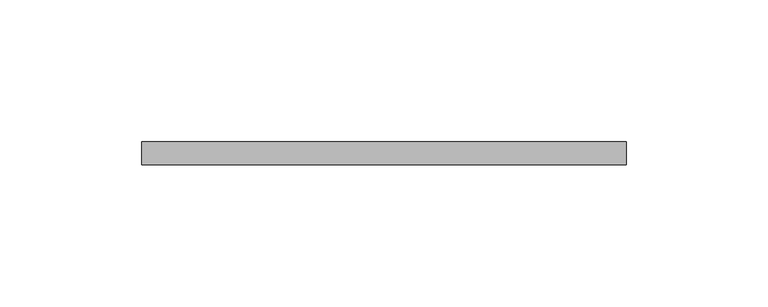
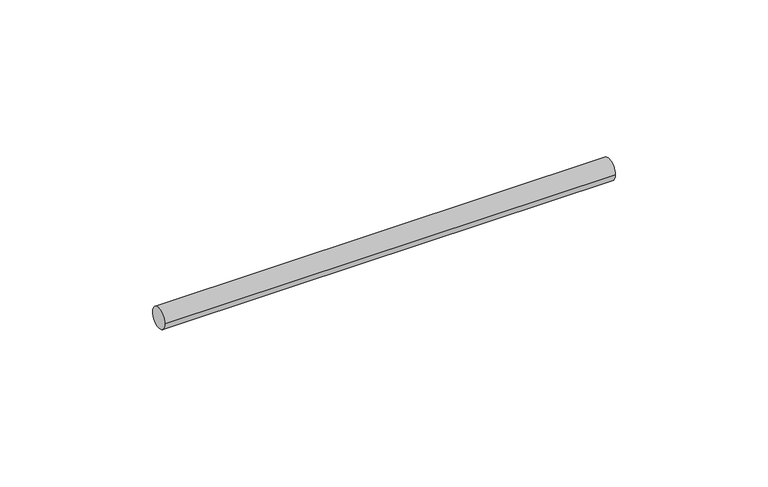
"""IFC4 building model written with IfcOpenShell, lengths in millimetres: valve geometry, Superfix Threaded Rod (used for clamps) : Threaded Rod - 1000 mm (used for clamps)."""

from ifc_helpers import new_model, si_unit, point, frame, origin, origin_2d, place, context, project, spatial, circle_curve, trimmed, segment, composite_curve, outline, extrude, source, transform, mapped, element, save


def valve_32e9b142(model_context):
    return source(origin(), model_context, "Body", "SweptSolid", [
        extrude(outline(composite_curve([segment(trimmed(circle_curve(origin_2d(), 4.0), [point((-4.0, 0.0))], [point((4.0, 0.0))], False, "CARTESIAN"), True, "CONTINUOUS"), segment(trimmed(circle_curve(origin_2d(), 4.0), [point((4.0, 0.0))], [point((-4.0, 0.0))], False, "CARTESIAN"), True, "CONTINUOUS")], self_intersect=False)), frame((-10.0, 0.0, 0.0), z_axis=(1.0, 0.0, 0.0), x_axis=(0.0, 1.0, 0.0)), (0.0, 0.0, 1.0), 170.5),
    ])


if __name__ == "__main__":
    model = new_model("IFC4")
    model_context = context("Model", 3, world=origin())
    ifc_project = project(units=[si_unit("LENGTHUNIT", "METRE", prefix="MILLI")], contexts=[model_context])
    site = spatial("IfcSite", under=ifc_project)
    building = spatial("IfcBuilding", under=site)
    placement = place(None, origin())
    valve_shape = valve_32e9b142(model_context)
    element("IfcValve", 1, ObjectType="Superfix Threaded Rod (used for clamps) : Threaded Rod - 1000 mm (used for clamps)", at=placement, inside=building, context=model_context, shape_type="MappedRepresentation", body=[
        mapped(valve_shape, transform((0.0, 0.0, 0.0), x_axis=(1.0, 0.0, 0.0), y_axis=(0.0, 1.0, 0.0), z_axis=(0.0, 0.0, 1.0))),
    ])
    save(model, "model.ifc")
